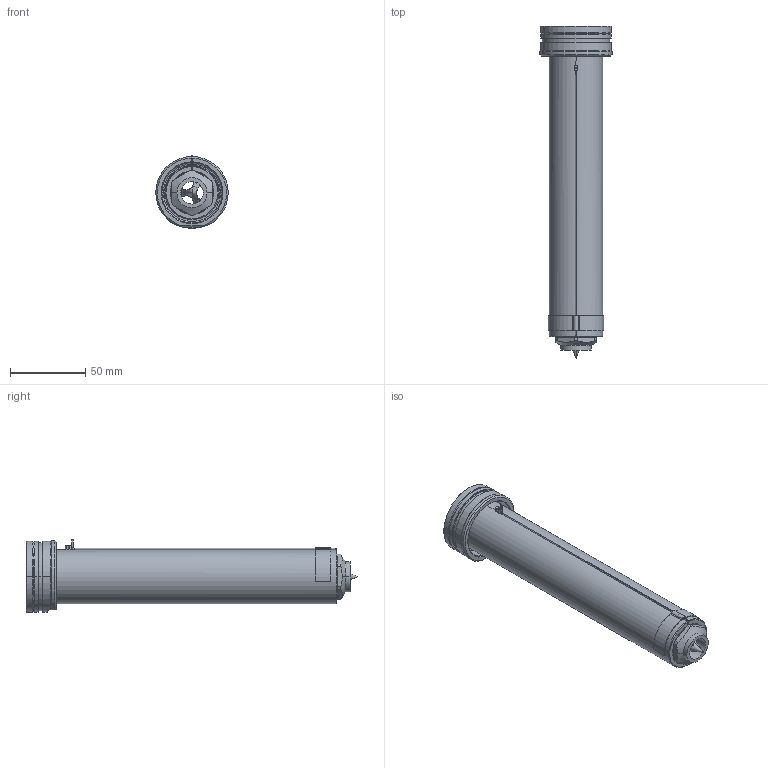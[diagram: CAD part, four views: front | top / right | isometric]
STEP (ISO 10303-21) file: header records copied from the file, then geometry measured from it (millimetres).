
FILE_DESCRIPTION((''),'2;1');
FILE_NAME('EO16_PG-BL_WR_200_SW','2024-02-19T11:19:44',('sundharh'),(''),'CREO PARAMETRIC BY PTC INC, 2023154','CREO PARAMETRIC BY PTC INC, 2023154','');
FILE_SCHEMA(('CONFIG_CONTROL_DESIGN'));
Length unit declared in the file: millimetre
Products named in the file (1): EO16_PG-BL_WR_200_SW
Bounding box: 47.97 x 220 x 48 mm (x, y, z)
Volume: 179740 mm3; surface area: 44905.1 mm2
Topology: 1 solids, 1 shells, 199 faces, 526 edges, 324 vertices
Faces by surface type: cylinder 79, plane 58, cone 39, torus 14, bspline 7, sphere 2
Entity records: 7366 total; most frequent: CARTESIAN_POINT 2347, DIRECTION 1107, ORIENTED_EDGE 1036, EDGE_CURVE 518, AXIS2_PLACEMENT_3D 461, VERTEX_POINT 324, CIRCLE 269, EDGE_LOOP 216
